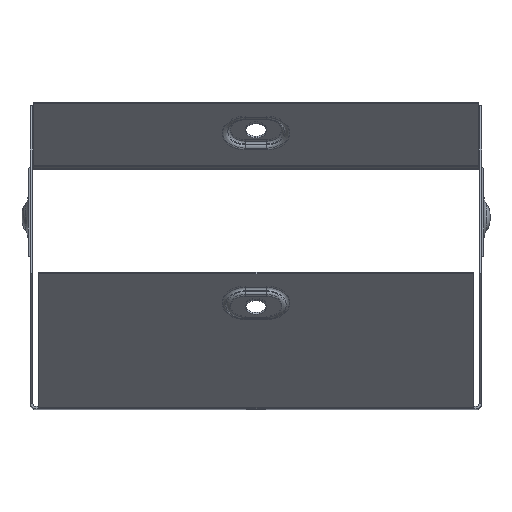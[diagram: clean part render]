
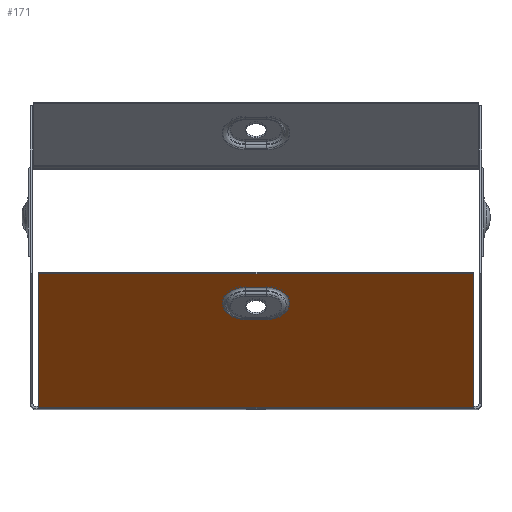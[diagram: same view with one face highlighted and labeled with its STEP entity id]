
A CAD part, top view. The second image highlights one B-rep face of the part: STEP entity #171.
In plain terms, the highlighted planar face has unit normal (0, -0.707, 0.707).
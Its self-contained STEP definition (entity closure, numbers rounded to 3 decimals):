
#166 = ORIENTED_EDGE ( 'NONE', *, *, #2092, .T. ) ;
#168 = DIRECTION ( 'NONE',  ( 0., 0.707, -0.707 ) ) ;
#171 = ADVANCED_FACE ( 'NONE', ( #10507, #8286 ), #6504, .F. ) ;
#180 = CARTESIAN_POINT ( 'NONE',  ( -72.299, -80.8, 96. ) ) ;
#354 = EDGE_LOOP ( 'NONE', ( #10301, #10425, #8356, #1749 ) ) ;
#452 = CARTESIAN_POINT ( 'NONE',  ( 72.299, -80.273, 96.527 ) ) ;
#1101 = EDGE_CURVE ( 'NONE', #3227, #4386, #12549, .T. ) ;
#1700 = VERTEX_POINT ( 'NONE', #10081 ) ;
#1749 = ORIENTED_EDGE ( 'NONE', *, *, #2588, .T. ) ;
#2092 = EDGE_CURVE ( 'NONE', #4386, #5873, #5080, .T. ) ;
#2499 = DIRECTION ( 'NONE',  ( -1., 0., 0. ) ) ;
#2588 = EDGE_CURVE ( 'NONE', #13064, #1700, #3003, .T. ) ;
#3003 = LINE ( 'NONE', #12677, #3505 ) ;
#3047 = EDGE_CURVE ( 'NONE', #1700, #7226, #4350, .T. ) ;
#3227 = VERTEX_POINT ( 'NONE', #7518 ) ;
#3346 = ORIENTED_EDGE ( 'NONE', *, *, #1101, .T. ) ;
#3505 = VECTOR ( 'NONE', #7366, 1000. ) ;
#3634 = CARTESIAN_POINT ( 'NONE',  ( 3.5, -51.206, 125.594 ) ) ;
#3793 = CARTESIAN_POINT ( 'NONE',  ( 3.5, -40.461, 136.339 ) ) ;
#4158 = CARTESIAN_POINT ( 'NONE',  ( 72.299, -81.015, 95.785 ) ) ;
#4350 = LINE ( 'NONE', #180, #12997 ) ;
#4386 = VERTEX_POINT ( 'NONE', #5210 ) ;
#4405 = AXIS2_PLACEMENT_3D ( 'NONE', #7920, #6906, #13264 ) ;
#4584 = DIRECTION ( 'NONE',  ( 0., 0.707, 0.707 ) ) ;
#4822 = EDGE_CURVE ( 'NONE', #8183, #3227, #7616, .T. ) ;
#4825 = CARTESIAN_POINT ( 'NONE',  ( 73.2, -80.273, 96.527 ) ) ;
#4913 = EDGE_CURVE ( 'NONE', #7626, #13064, #12698, .T. ) ;
#5080 = LINE ( 'NONE', #9846, #13028 ) ;
#5210 = CARTESIAN_POINT ( 'NONE',  ( -3.5, -40.461, 136.339 ) ) ;
#5350 = DIRECTION ( 'NONE',  ( 0., 0.707, -0.707 ) ) ;
#5487 = LINE ( 'NONE', #4825, #11348 ) ;
#5544 = DIRECTION ( 'NONE',  ( 0., -0.707, -0.707 ) ) ;
#5873 = VERTEX_POINT ( 'NONE', #3793 ) ;
#6432 = CARTESIAN_POINT ( 'NONE',  ( 72.299, -35.934, 140.866 ) ) ;
#6504 = PLANE ( 'NONE',  #8887 ) ;
#6906 = DIRECTION ( 'NONE',  ( 0., 0.707, -0.707 ) ) ;
#6932 = DIRECTION ( 'NONE',  ( -1., 0., 0. ) ) ;
#7226 = VERTEX_POINT ( 'NONE', #13622 ) ;
#7366 = DIRECTION ( 'NONE',  ( -1., 0., 0. ) ) ;
#7518 = CARTESIAN_POINT ( 'NONE',  ( -3.5, -51.206, 125.594 ) ) ;
#7616 = LINE ( 'NONE', #9012, #13553 ) ;
#7626 = VERTEX_POINT ( 'NONE', #452 ) ;
#7673 = DIRECTION ( 'NONE',  ( 1., 0., 0. ) ) ;
#7920 = CARTESIAN_POINT ( 'NONE',  ( 3.5, -45.834, 130.966 ) ) ;
#8183 = VERTEX_POINT ( 'NONE', #3634 ) ;
#8286 = FACE_OUTER_BOUND ( 'NONE', #354, .T. ) ;
#8356 = ORIENTED_EDGE ( 'NONE', *, *, #4913, .T. ) ;
#8887 = AXIS2_PLACEMENT_3D ( 'NONE', #13287, #168, #4584 ) ;
#9012 = CARTESIAN_POINT ( 'NONE',  ( 3.5, -51.206, 125.594 ) ) ;
#9348 = CIRCLE ( 'NONE', #4405, 7.598 ) ;
#9553 = EDGE_CURVE ( 'NONE', #5873, #8183, #9348, .T. ) ;
#9635 = ORIENTED_EDGE ( 'NONE', *, *, #9553, .T. ) ;
#9804 = VECTOR ( 'NONE', #11718, 1000. ) ;
#9846 = CARTESIAN_POINT ( 'NONE',  ( 3.5, -40.461, 136.339 ) ) ;
#10032 = EDGE_CURVE ( 'NONE', #7626, #7226, #5487, .T. ) ;
#10081 = CARTESIAN_POINT ( 'NONE',  ( -72.299, -35.934, 140.866 ) ) ;
#10301 = ORIENTED_EDGE ( 'NONE', *, *, #3047, .T. ) ;
#10425 = ORIENTED_EDGE ( 'NONE', *, *, #10032, .F. ) ;
#10507 = FACE_BOUND ( 'NONE', #13382, .T. ) ;
#11348 = VECTOR ( 'NONE', #6932, 1000. ) ;
#11718 = DIRECTION ( 'NONE',  ( 0., 0.707, 0.707 ) ) ;
#11816 = ORIENTED_EDGE ( 'NONE', *, *, #4822, .T. ) ;
#12549 = CIRCLE ( 'NONE', #13519, 7.598 ) ;
#12677 = CARTESIAN_POINT ( 'NONE',  ( 73.2, -35.934, 140.866 ) ) ;
#12698 = LINE ( 'NONE', #4158, #9804 ) ;
#12997 = VECTOR ( 'NONE', #5544, 1000. ) ;
#13028 = VECTOR ( 'NONE', #7673, 1000. ) ;
#13064 = VERTEX_POINT ( 'NONE', #6432 ) ;
#13264 = DIRECTION ( 'NONE',  ( 0., 0.707, 0.707 ) ) ;
#13287 = CARTESIAN_POINT ( 'NONE',  ( 73.2, -80.8, 96. ) ) ;
#13382 = EDGE_LOOP ( 'NONE', ( #166, #9635, #11816, #3346 ) ) ;
#13519 = AXIS2_PLACEMENT_3D ( 'NONE', #14078, #5350, #13978 ) ;
#13553 = VECTOR ( 'NONE', #2499, 1000. ) ;
#13622 = CARTESIAN_POINT ( 'NONE',  ( -72.299, -80.273, 96.527 ) ) ;
#13978 = DIRECTION ( 'NONE',  ( 0., 0.707, 0.707 ) ) ;
#14078 = CARTESIAN_POINT ( 'NONE',  ( -3.5, -45.834, 130.966 ) ) ;
